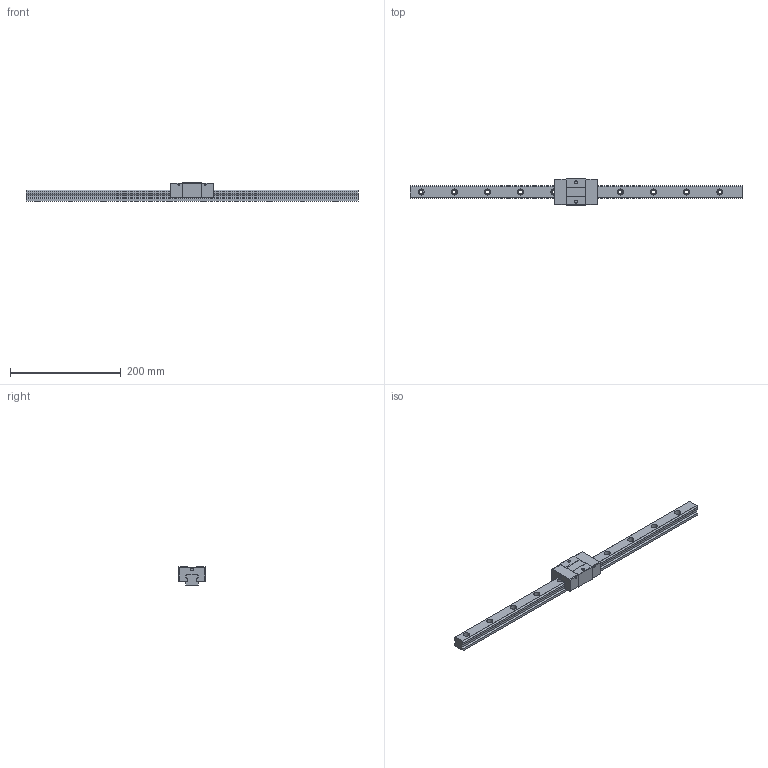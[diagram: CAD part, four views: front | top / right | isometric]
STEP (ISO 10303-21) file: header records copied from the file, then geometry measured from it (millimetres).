
FILE_DESCRIPTION (( 'STEP AP203' ), '1' );
FILE_NAME ('TRS25VS-WZ.STEP', '2024-06-12T07:14:14', ( '' ), ( '' ), 'SwSTEP 2.0', 'SolidWorks 2022', '' );
FILE_SCHEMA (( 'CONFIG_CONTROL_DESIGN' ));
Length unit declared in the file: millimetre
Products named in the file (1): TRS25VS-WZ
Bounding box: 600 x 48 x 33 mm (x, y, z)
Volume: 309267.1 mm3; surface area: 75410 mm2
Topology: 2 solids, 2 shells, 186 faces, 484 edges, 320 vertices
Faces by surface type: plane 94, cylinder 92
Entity records: 5863 total; most frequent: DIRECTION 1042, CARTESIAN_POINT 991, ORIENTED_EDGE 968, EDGE_CURVE 484, AXIS2_PLACEMENT_3D 371, VERTEX_POINT 320, LINE 300, VECTOR 300
